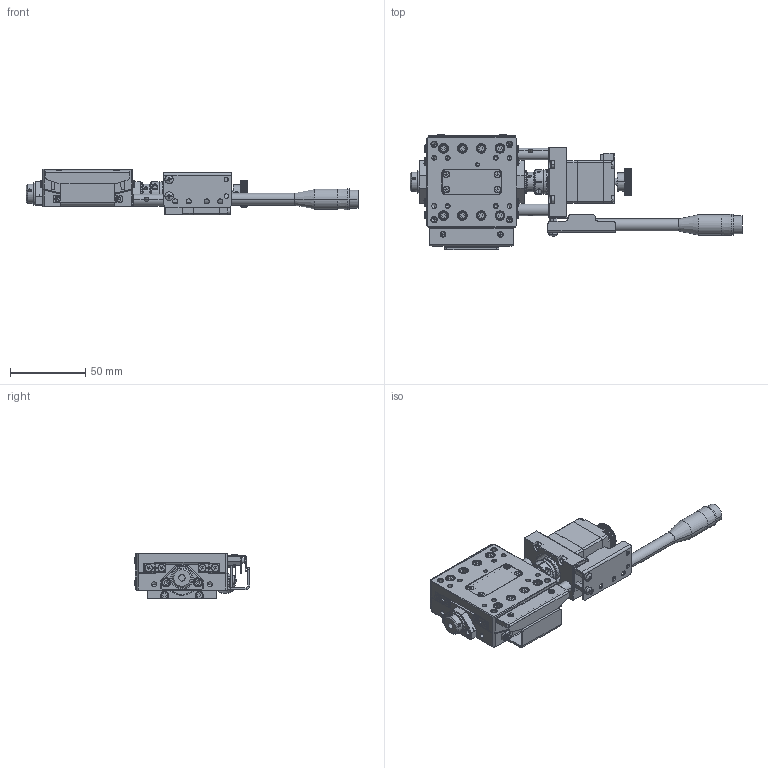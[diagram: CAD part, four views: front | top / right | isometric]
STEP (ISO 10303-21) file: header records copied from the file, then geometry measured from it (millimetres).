
FILE_DESCRIPTION (( 'STEP AP214' ), '1' );
FILE_NAME ('TAA6075-L1-M28R.STEP', '2025-01-03T08:21:40', ( '' ), ( '' ), 'SwSTEP 2.0', 'SolidWorks 2020', '' );
FILE_SCHEMA (( 'AUTOMOTIVE_DESIGN' ));
Length unit declared in the file: millimetre
Products named in the file (1): TAA6075-L1-M28R
Bounding box: 220.38 x 76.71 x 30.5 mm (x, y, z)
Volume: 127854.4 mm3; surface area: 67638 mm2
Topology: 26 solids, 128 shells, 4064 faces, 10144 edges, 6386 vertices
Faces by surface type: plane 2034, cylinder 1161, cone 400, torus 212, bspline 209, sphere 48
Entity records: 141709 total; most frequent: CARTESIAN_POINT 45434, ORIENTED_EDGE 19868, DIRECTION 19726, EDGE_CURVE 9934, AXIS2_PLACEMENT_3D 7026, VERTEX_POINT 6386, LINE 5674, VECTOR 5674
